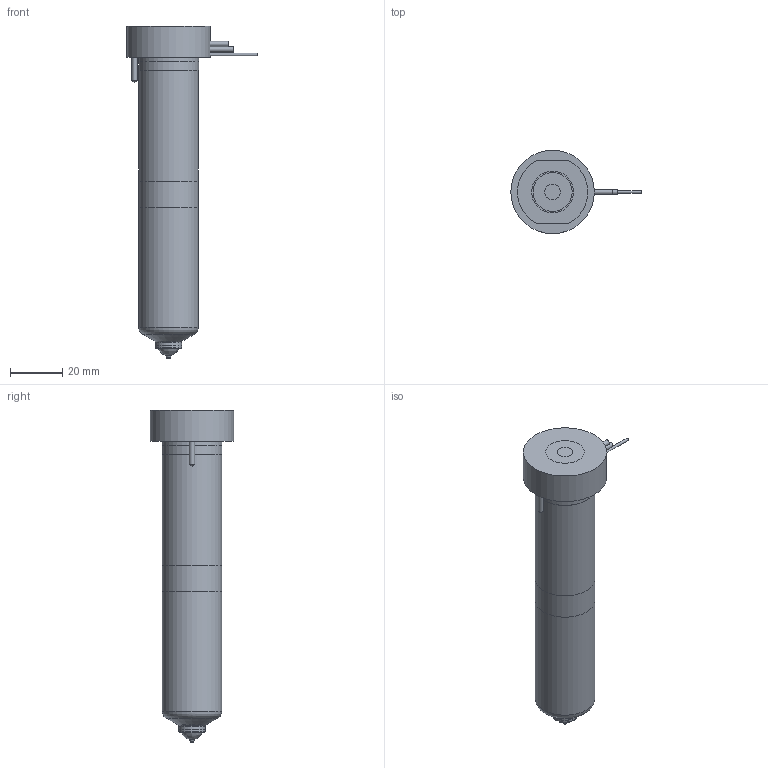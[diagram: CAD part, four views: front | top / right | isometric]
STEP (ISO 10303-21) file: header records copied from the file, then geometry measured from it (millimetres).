
FILE_DESCRIPTION(/* description */ (''),/* implementation_level */ '2;1');
FILE_NAME(/* name */ 'MXOV13115_200C_b',/* time_stamp */ '2007-01-18T09:49:35+13:00',/* author */ (''),/* organization */ (''),/* preprocessor_version */ 'ST-DEVELOPER v9',/* originating_system */ 'UGS - NX 4.0',/* authorisation */ '');
FILE_SCHEMA (('CONFIG_CONTROL_DESIGN'));
Length unit declared in the file: millimetre
Products named in the file (1): MXOV13115_200C_b
Bounding box: 49.95 x 32 x 127.3 mm (x, y, z)
Volume: 94606.1 mm3; surface area: 21952.9 mm2
Topology: 7 solids, 7 shells, 90 faces, 170 edges, 108 vertices
Faces by surface type: plane 37, cylinder 29, cone 13, torus 8, bspline 3
Full cylindrical faces by diameter (mm): 1 x3, 2 x5, 6 x1, 6.4 x1, 6.5 x1, 9.61 x1, 10.01 x2, 12.6 x1, 18.8 x1, 22.9 x2, 23 x2, 32 x1
Entity records: 2168 total; most frequent: CARTESIAN_POINT 462, DIRECTION 366, ORIENTED_EDGE 236, AXIS2_PLACEMENT_3D 170, EDGE_LOOP 146, EDGE_CURVE 118, VERTEX_POINT 99, ADVANCED_FACE 90
